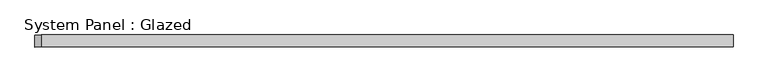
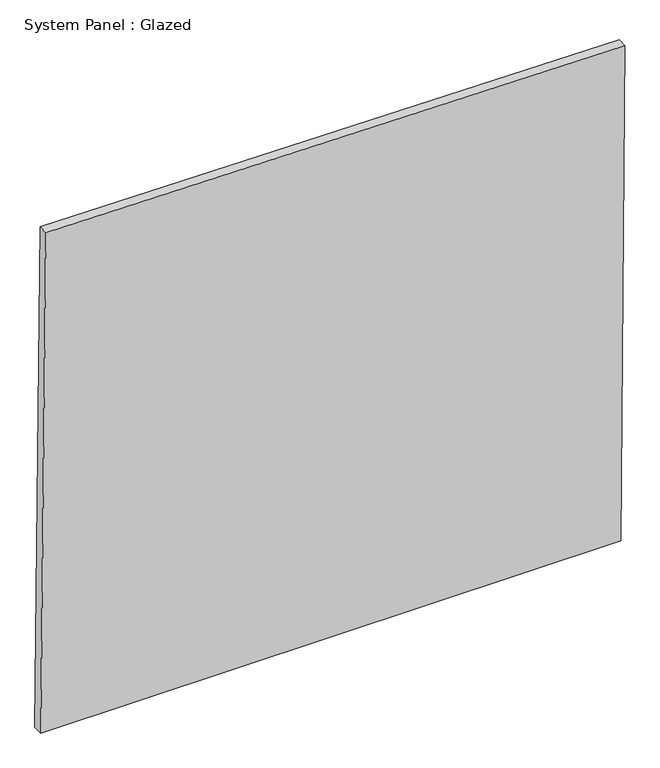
"""IFC4 building model written with IfcOpenShell, lengths in millimetres: plate geometry, System Panel : Glazed."""

from ifc_helpers import new_model, si_unit, frame, origin, place, context, project, spatial, polyline, outline, extrude, source, transform, mapped, element, save


def system_panel_glazed_ee9bd4c1(model_context):
    return source(origin(), model_context, "Body", "SweptSolid", [
        extrude(outline(polyline([(0.0, -726.2442493), (0.0, 715.3657647), (1296.9011121, 726.2442493), (1309.9706661, -713.4574632), (0.0, -726.2442493)])), frame((0.0, -49.5, 0.0), z_axis=(0.0, 1.0, 0.0), x_axis=(0.0, 0.0, 1.0)), (0.0, 0.0, 1.0), 25.0),
    ])


if __name__ == "__main__":
    model = new_model("IFC4")
    model_context = context("Model", 3, world=origin())
    ifc_project = project(units=[si_unit("LENGTHUNIT", "METRE", prefix="MILLI")], contexts=[model_context])
    site = spatial("IfcSite", under=ifc_project)
    building = spatial("IfcBuilding", under=site)
    placement = place(None, origin())
    system_panel_glazed_shape = system_panel_glazed_ee9bd4c1(model_context)
    element("IfcPlate", 1, ObjectType="System Panel : Glazed", at=placement, inside=building, context=model_context, shape_type="MappedRepresentation", body=[
        mapped(system_panel_glazed_shape, transform((0.0, 0.0, 0.0), x_axis=(1.0, 0.0, 0.0), y_axis=(0.0, 1.0, 0.0), z_axis=(0.0, 0.0, 1.0))),
    ])
    save(model, "model.ifc")
